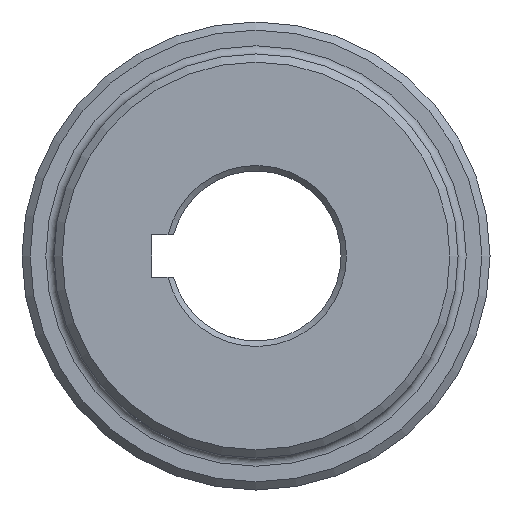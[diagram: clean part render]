
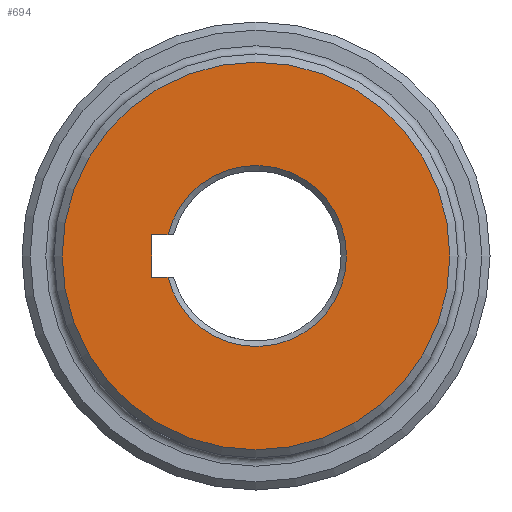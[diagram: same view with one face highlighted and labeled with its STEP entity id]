
A CAD part, left-side view. The second image highlights one B-rep face of the part: STEP entity #694.
In plain terms, the highlighted planar face has unit normal (-1, 0, 0).
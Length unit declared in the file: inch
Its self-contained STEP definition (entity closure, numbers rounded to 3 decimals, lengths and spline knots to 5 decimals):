
#38 = VECTOR ( 'NONE', #1383, 39.37008 ) ;
#196 = CARTESIAN_POINT ( 'NONE',  ( 0., 0., -0.156 ) ) ;
#319 = DIRECTION ( 'NONE',  ( 1., 0., 0. ) ) ;
#351 = ORIENTED_EDGE ( 'NONE', *, *, #1651, .F. ) ;
#424 = ORIENTED_EDGE ( 'NONE', *, *, #792, .T. ) ;
#478 = PLANE ( 'NONE',  #1835 ) ;
#504 = EDGE_CURVE ( 'NONE', #1817, #1817, #1404, .T. ) ;
#694 = ADVANCED_FACE ( 'NONE', ( #1485, #2012 ), #478, .F. ) ;
#712 = CARTESIAN_POINT ( 'NONE',  ( 0., 0.76675, -0.156 ) ) ;
#754 = CARTESIAN_POINT ( 'NONE',  ( 0., 0.76675, -0.156 ) ) ;
#792 = EDGE_CURVE ( 'NONE', #2210, #992, #1015, .T. ) ;
#816 = CARTESIAN_POINT ( 'NONE',  ( 0., 0., -1.425 ) ) ;
#849 = VERTEX_POINT ( 'NONE', #1082 ) ;
#852 = DIRECTION ( 'NONE',  ( 0., 0., -1. ) ) ;
#906 = DIRECTION ( 'NONE',  ( 0., 1., 0. ) ) ;
#910 = EDGE_CURVE ( 'NONE', #2210, #849, #1123, .T. ) ;
#933 = DIRECTION ( 'NONE',  ( 0., 0., -1. ) ) ;
#981 = CARTESIAN_POINT ( 'NONE',  ( 0., 0.6467, -0.156 ) ) ;
#992 = VERTEX_POINT ( 'NONE', #981 ) ;
#1015 = CIRCLE ( 'NONE', #1401, 0.66525 ) ;
#1019 = ORIENTED_EDGE ( 'NONE', *, *, #1208, .F. ) ;
#1075 = DIRECTION ( 'NONE',  ( 1., 0., 0. ) ) ;
#1082 = CARTESIAN_POINT ( 'NONE',  ( 0., 0.76675, 0.156 ) ) ;
#1123 = LINE ( 'NONE', #1965, #1641 ) ;
#1126 = VERTEX_POINT ( 'NONE', #712 ) ;
#1208 = EDGE_CURVE ( 'NONE', #1126, #992, #1342, .T. ) ;
#1230 = CARTESIAN_POINT ( 'NONE',  ( 0., 0.6467, 0.156 ) ) ;
#1312 = AXIS2_PLACEMENT_3D ( 'NONE', #1554, #1854, #852 ) ;
#1342 = LINE ( 'NONE', #196, #38 ) ;
#1383 = DIRECTION ( 'NONE',  ( 0., -1., 0. ) ) ;
#1390 = EDGE_LOOP ( 'NONE', ( #1778, #424, #1019, #351 ) ) ;
#1401 = AXIS2_PLACEMENT_3D ( 'NONE', #2047, #1075, #1956 ) ;
#1404 = CIRCLE ( 'NONE', #1312, 1.425 ) ;
#1434 = EDGE_LOOP ( 'NONE', ( #2136 ) ) ;
#1485 = FACE_OUTER_BOUND ( 'NONE', #1434, .T. ) ;
#1554 = CARTESIAN_POINT ( 'NONE',  ( 0., 0., 0. ) ) ;
#1641 = VECTOR ( 'NONE', #906, 39.37008 ) ;
#1651 = EDGE_CURVE ( 'NONE', #849, #1126, #1867, .T. ) ;
#1778 = ORIENTED_EDGE ( 'NONE', *, *, #910, .F. ) ;
#1787 = CARTESIAN_POINT ( 'NONE',  ( 0., 0., 0. ) ) ;
#1817 = VERTEX_POINT ( 'NONE', #816 ) ;
#1835 = AXIS2_PLACEMENT_3D ( 'NONE', #1787, #319, #933 ) ;
#1854 = DIRECTION ( 'NONE',  ( -1., 0., 0. ) ) ;
#1867 = LINE ( 'NONE', #754, #2172 ) ;
#1956 = DIRECTION ( 'NONE',  ( 0., 0., -1. ) ) ;
#1965 = CARTESIAN_POINT ( 'NONE',  ( 0., 0., 0.156 ) ) ;
#2012 = FACE_BOUND ( 'NONE', #1390, .T. ) ;
#2022 = DIRECTION ( 'NONE',  ( 0., 0., -1. ) ) ;
#2047 = CARTESIAN_POINT ( 'NONE',  ( 0., 0., 0. ) ) ;
#2136 = ORIENTED_EDGE ( 'NONE', *, *, #504, .T. ) ;
#2172 = VECTOR ( 'NONE', #2022, 39.37008 ) ;
#2210 = VERTEX_POINT ( 'NONE', #1230 ) ;
